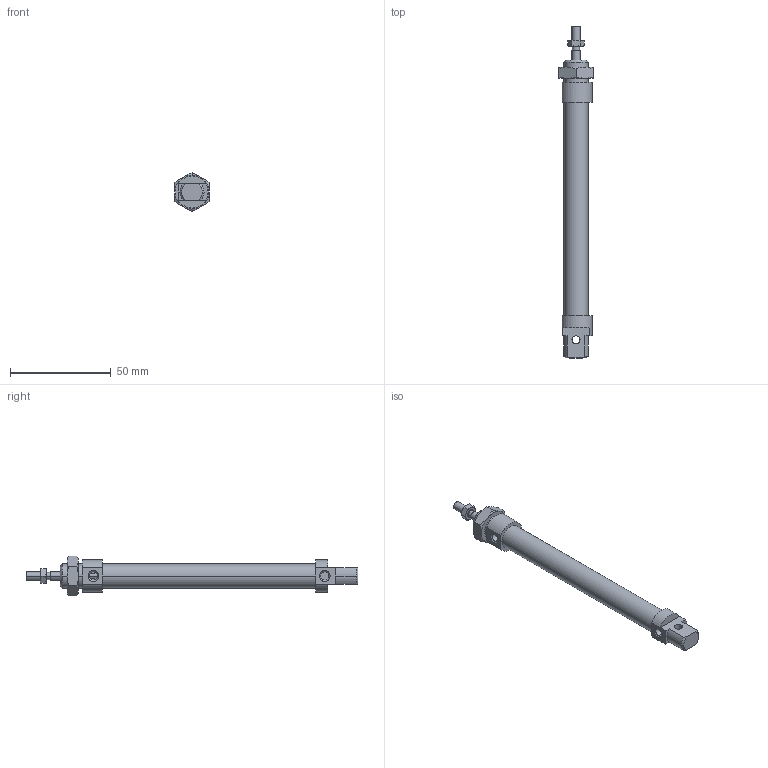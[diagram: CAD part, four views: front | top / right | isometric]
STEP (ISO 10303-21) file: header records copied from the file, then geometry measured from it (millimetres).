
FILE_DESCRIPTION((''),'2;1');
FILE_NAME('I:\DOC-EDP\Lib-3d\1200\CILINDRI\1260\1260_08_0080.stp','2003-04-02T14:55:40',('maffial1'),(''),'Autodesk Inventor (R) 6.0','Autodesk Inventor (R) 6.0','');
FILE_SCHEMA(('AUTOMOTIVE_DESIGN { 1 0 10303 214 1 1 1 1 }'));
Length unit declared in the file: millimetre
Products named in the file (5): 1260_08_0080; S1260_08_80; 1200_08_05; 1200_08_06; C1260_08_80
Assembly tree (4 placements, depth 2):
  1260_08_0080
    S1260_08_80
    1200_08_05
    1200_08_06
    C1260_08_80
Bounding box: 17 x 165 x 19.63 mm (x, y, z)
Volume: 18675 mm3; surface area: 10202.5 mm2
Topology: 4 solids, 4 shells, 117 faces, 261 edges, 158 vertices
Faces by surface type: cone 40, plane 34, cylinder 22, bspline 21
Entity records: 3580 total; most frequent: CARTESIAN_POINT 992, DIRECTION 529, ORIENTED_EDGE 522, EDGE_CURVE 261, AXIS2_PLACEMENT_3D 219, VERTEX_POINT 158, EDGE_LOOP 131, FACE_OUTER_BOUND 117
